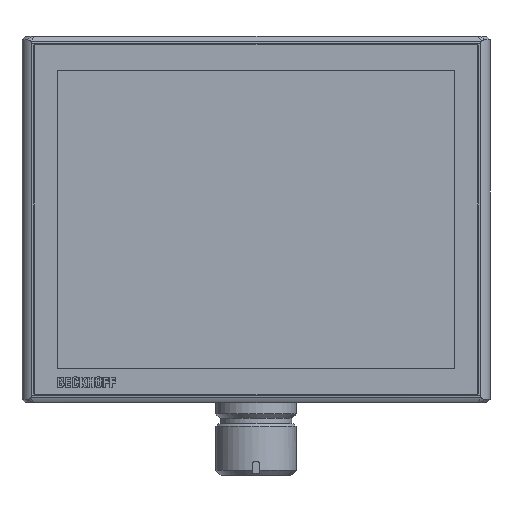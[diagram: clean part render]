
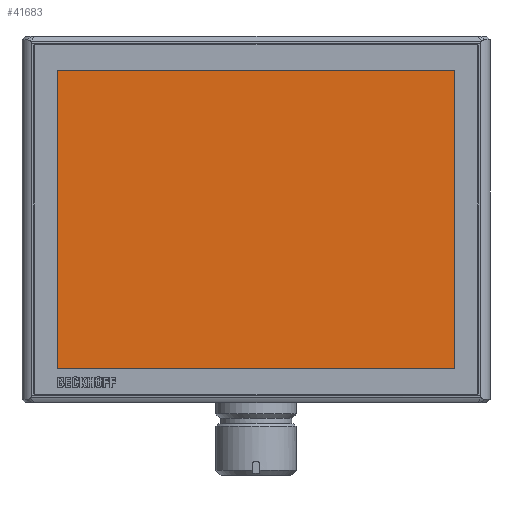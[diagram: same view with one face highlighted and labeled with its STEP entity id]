
A CAD part, top view. The second image highlights one B-rep face of the part: STEP entity #41683.
In plain terms, the highlighted planar face has unit normal (0, 0, 1).
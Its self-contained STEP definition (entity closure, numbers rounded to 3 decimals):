
#818=LINE('',#63061,#4829);
#819=LINE('',#63063,#4830);
#820=LINE('',#63065,#4831);
#821=LINE('',#63066,#4832);
#4829=VECTOR('',#48886,230.1);
#4830=VECTOR('',#48887,306.1);
#4831=VECTOR('',#48888,230.1);
#4832=VECTOR('',#48889,306.1);
#8643=PLANE('',#44164);
#12034=FACE_OUTER_BOUND('',#14401,.T.);
#14401=EDGE_LOOP('',(#28606,#28607,#28608,#28609));
#17522=VERTEX_POINT('',#63059);
#17523=VERTEX_POINT('',#63060);
#17524=VERTEX_POINT('',#63062);
#17525=VERTEX_POINT('',#63064);
#21826=EDGE_CURVE('',#17522,#17523,#818,.T.);
#21827=EDGE_CURVE('',#17524,#17522,#819,.T.);
#21828=EDGE_CURVE('',#17525,#17524,#820,.T.);
#21829=EDGE_CURVE('',#17523,#17525,#821,.T.);
#28606=ORIENTED_EDGE('',*,*,#21826,.F.);
#28607=ORIENTED_EDGE('',*,*,#21827,.F.);
#28608=ORIENTED_EDGE('',*,*,#21828,.F.);
#28609=ORIENTED_EDGE('',*,*,#21829,.F.);
#41683=ADVANCED_FACE('',(#12034),#8643,.T.);
#44164=AXIS2_PLACEMENT_3D('',#63058,#48884,#48885);
#48884=DIRECTION('center_axis',(0.,0.,
1.));
#48885=DIRECTION('ref_axis',(-1.,0.,0.));
#48886=DIRECTION('',(0.,1.,0.));
#48887=DIRECTION('',(-1.,0.,0.));
#48888=DIRECTION('',(0.,-1.,0.));
#48889=DIRECTION('',(1.,0.,0.));
#63058=CARTESIAN_POINT('Origin',(0.,0.,
11.3));
#63059=CARTESIAN_POINT('',(-153.05,-115.05,11.3));
#63060=CARTESIAN_POINT('',(-153.05,115.05,11.3));
#63061=CARTESIAN_POINT('',(-153.05,57.525,11.3));
#63062=CARTESIAN_POINT('',(153.05,-115.05,11.3));
#63063=CARTESIAN_POINT('',(-76.525,-115.05,11.3));
#63064=CARTESIAN_POINT('',(153.05,115.05,11.3));
#63065=CARTESIAN_POINT('',(153.05,-57.525,11.3));
#63066=CARTESIAN_POINT('',(76.525,115.05,11.3));
